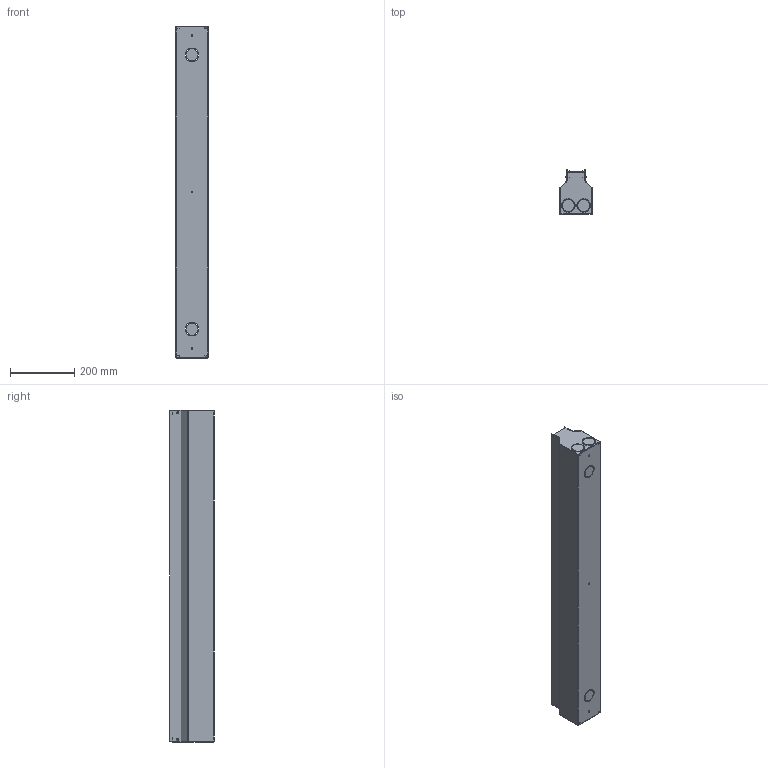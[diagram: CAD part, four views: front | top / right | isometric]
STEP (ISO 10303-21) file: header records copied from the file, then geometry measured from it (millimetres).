
FILE_DESCRIPTION(/* description */ ('Unknown'),/* implementation_level */ '2;1');
FILE_NAME(/* name */ 'E98763',/* time_stamp */ '2023-02-07T09:07:54+01:00',/* author */ ('Unknown'),/* organization */ ('Unknown'),/* preprocessor_version */ 'ST-DEVELOPER v18.1',/* originating_system */ 'Solid Edge',/* authorisation */ 'Unknown');
FILE_SCHEMA (('AUTOMOTIVE_DESIGN {1 0 10303 214 3 1 1}'));
Length unit declared in the file: millimetre
Products named in the file (1): E98763
Bounding box: 100.2 x 138.27 x 1036 mm (x, y, z)
Volume: 424999.4 mm3; surface area: 856948.7 mm2
Topology: 1 solids, 1 shells, 868 faces, 3102 edges, 2069 vertices
Faces by surface type: plane 525, cylinder 316, torus 18, sphere 6, cone 3
Full cylindrical faces by diameter (mm): 3 x2, 3.242 x1, 3.5 x4, 3.8 x4, 4.5 x8, 6 x7, 7.8 x4
Entity records: 39090 total; most frequent: ORIENTED_EDGE 6014, CARTESIAN_POINT 5913, DIRECTION 5400, EDGE_CURVE 3007, LINE 2352, VECTOR 2352, VERTEX_POINT 2037, AXIS2_PLACEMENT_3D 1524
